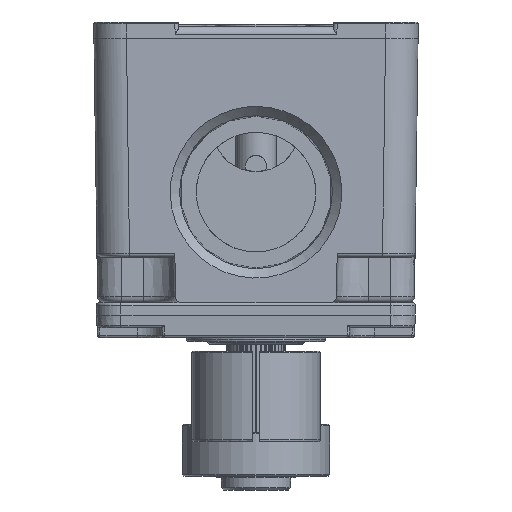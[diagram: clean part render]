
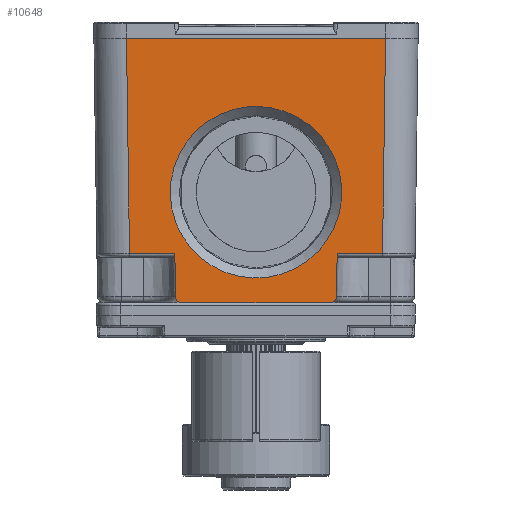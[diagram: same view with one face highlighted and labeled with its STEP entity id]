
A CAD part, left-side view. The second image highlights one B-rep face of the part: STEP entity #10648.
In plain terms, the highlighted planar face has unit normal (-1, 0, -0.011).
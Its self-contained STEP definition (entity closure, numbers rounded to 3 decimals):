
#7413 = VERTEX_POINT('',#7414);
#7414 = CARTESIAN_POINT('',(-33.671,-8.873,0.));
#7420 = EDGE_CURVE('',#7413,#7421,#7423,.T.);
#7421 = VERTEX_POINT('',#7422);
#7422 = CARTESIAN_POINT('',(-33.671,9.314,0.));
#7423 = LINE('',#7424,#7425);
#7424 = CARTESIAN_POINT('',(-33.671,0.22,0.));
#7425 = VECTOR('',#7426,1.);
#7426 = DIRECTION('',(0.,1.,0.));
#7579 = EDGE_CURVE('',#7580,#7582,#7584,.T.);
#7580 = VERTEX_POINT('',#7581);
#7581 = CARTESIAN_POINT('',(-33.735,-15.324,
    6.095));
#7582 = VERTEX_POINT('',#7583);
#7583 = CARTESIAN_POINT('',(-34.011,-15.693,32.5));
#7584 = LINE('',#7585,#7586);
#7585 = CARTESIAN_POINT('',(-34.009,-15.69,
    32.278));
#7586 = VECTOR('',#7587,1.);
#7587 = DIRECTION('',(-0.01,-0.014,
    1.));
#9228 = VERTEX_POINT('',#9229);
#9229 = CARTESIAN_POINT('',(-34.011,16.134,32.5));
#9235 = EDGE_CURVE('',#9228,#7582,#9236,.T.);
#9236 = LINE('',#9237,#9238);
#9237 = CARTESIAN_POINT('',(-34.011,0.22,32.5));
#9238 = VECTOR('',#9239,1.);
#9239 = DIRECTION('',(0.,-1.,0.));
#10648 = ADVANCED_FACE('',(#10649,#10674),#10733,.F.);
#10649 = FACE_BOUND('',#10650,.T.);
#10650 = EDGE_LOOP('',(#10651));
#10651 = ORIENTED_EDGE('',*,*,#10652,.T.);
#10652 = EDGE_CURVE('',#10653,#10653,#10655,.T.);
#10653 = VERTEX_POINT('',#10654);
#10654 = CARTESIAN_POINT('',(-33.924,0.22,
    24.124));
#10655 = B_SPLINE_CURVE_WITH_KNOTS('',3,(#10656,#10657,#10658,#10659,
    #10660,#10661,#10662,#10663,#10664,#10665,#10666,#10667,#10668,
    #10669,#10670,#10671,#10672,#10673),.UNSPECIFIED.,.T.,.F.,(2,2,2,2,2
    ,2,2,2,2,2,2),(-0.125,0.,0.125,0.25,0.375,0.5,0.625,0.75,0.875,1.,
    1.125),.UNSPECIFIED.);
#10656 = CARTESIAN_POINT('',(-33.924,2.984,
    24.124));
#10657 = CARTESIAN_POINT('',(-33.924,-2.543,
    24.124));
#10658 = CARTESIAN_POINT('',(-33.912,-5.28,
    22.991));
#10659 = CARTESIAN_POINT('',(-33.871,-9.189,
    19.082));
#10660 = CARTESIAN_POINT('',(-33.842,-10.322,
    16.346));
#10661 = CARTESIAN_POINT('',(-33.784,-10.322,
    10.818));
#10662 = CARTESIAN_POINT('',(-33.756,-9.189,
    8.081));
#10663 = CARTESIAN_POINT('',(-33.715,-5.28,
    4.173));
#10664 = CARTESIAN_POINT('',(-33.703,-2.543,
    3.039));
#10665 = CARTESIAN_POINT('',(-33.703,2.984,
    3.039));
#10666 = CARTESIAN_POINT('',(-33.715,5.721,
    4.173));
#10667 = CARTESIAN_POINT('',(-33.756,9.63,
    8.081));
#10668 = CARTESIAN_POINT('',(-33.784,10.763,
    10.818));
#10669 = CARTESIAN_POINT('',(-33.842,10.763,
    16.346));
#10670 = CARTESIAN_POINT('',(-33.871,9.63,
    19.082));
#10671 = CARTESIAN_POINT('',(-33.912,5.721,
    22.991));
#10672 = CARTESIAN_POINT('',(-33.924,2.984,
    24.124));
#10673 = CARTESIAN_POINT('',(-33.924,-2.543,
    24.124));
#10674 = FACE_BOUND('',#10675,.T.);
#10675 = EDGE_LOOP('',(#10676,#10677,#10686,#10694,#10700,#10701,#10702,
    #10710,#10718,#10726));
#10676 = ORIENTED_EDGE('',*,*,#7420,.F.);
#10677 = ORIENTED_EDGE('',*,*,#10678,.T.);
#10678 = EDGE_CURVE('',#7413,#10679,#10681,.T.);
#10679 = VERTEX_POINT('',#10680);
#10680 = CARTESIAN_POINT('',(-33.679,-9.673,
    0.789));
#10681 = ELLIPSE('',#10682,0.8,0.8);
#10682 = AXIS2_PLACEMENT_3D('',#10683,#10684,#10685);
#10683 = CARTESIAN_POINT('',(-33.679,-8.873,0.8));
#10684 = DIRECTION('',(-1.,0.,
    -0.01));
#10685 = DIRECTION('',(0.01,0.,
    -1.));
#10686 = ORIENTED_EDGE('',*,*,#10687,.T.);
#10687 = EDGE_CURVE('',#10679,#10688,#10690,.T.);
#10688 = VERTEX_POINT('',#10689);
#10689 = CARTESIAN_POINT('',(-33.735,-9.748,
    6.095));
#10690 = LINE('',#10691,#10692);
#10691 = CARTESIAN_POINT('',(-34.01,-10.119,
    32.354));
#10692 = VECTOR('',#10693,1.);
#10693 = DIRECTION('',(-0.01,-0.014,
    1.));
#10694 = ORIENTED_EDGE('',*,*,#10695,.T.);
#10695 = EDGE_CURVE('',#10688,#7580,#10696,.T.);
#10696 = LINE('',#10697,#10698);
#10697 = CARTESIAN_POINT('',(-33.735,-15.317,
    6.095));
#10698 = VECTOR('',#10699,1.);
#10699 = DIRECTION('',(0.,-1.,0.));
#10700 = ORIENTED_EDGE('',*,*,#7579,.T.);
#10701 = ORIENTED_EDGE('',*,*,#9235,.F.);
#10702 = ORIENTED_EDGE('',*,*,#10703,.F.);
#10703 = EDGE_CURVE('',#10704,#9228,#10706,.T.);
#10704 = VERTEX_POINT('',#10705);
#10705 = CARTESIAN_POINT('',(-33.735,15.765,
    6.095));
#10706 = LINE('',#10707,#10708);
#10707 = CARTESIAN_POINT('',(-34.008,16.13,
    32.198));
#10708 = VECTOR('',#10709,1.);
#10709 = DIRECTION('',(-0.01,0.014,
    1.));
#10710 = ORIENTED_EDGE('',*,*,#10711,.T.);
#10711 = EDGE_CURVE('',#10704,#10712,#10714,.T.);
#10712 = VERTEX_POINT('',#10713);
#10713 = CARTESIAN_POINT('',(-33.735,10.189,
    6.095));
#10714 = LINE('',#10715,#10716);
#10715 = CARTESIAN_POINT('',(-33.735,0.22,
    6.095));
#10716 = VECTOR('',#10717,1.);
#10717 = DIRECTION('',(0.,-1.,0.));
#10718 = ORIENTED_EDGE('',*,*,#10719,.T.);
#10719 = EDGE_CURVE('',#10712,#10720,#10722,.T.);
#10720 = VERTEX_POINT('',#10721);
#10721 = CARTESIAN_POINT('',(-33.679,10.114,
    0.789));
#10722 = LINE('',#10723,#10724);
#10723 = CARTESIAN_POINT('',(-34.01,10.56,
    32.354));
#10724 = VECTOR('',#10725,1.);
#10725 = DIRECTION('',(0.01,-0.014,
    -1.));
#10726 = ORIENTED_EDGE('',*,*,#10727,.T.);
#10727 = EDGE_CURVE('',#10720,#7421,#10728,.T.);
#10728 = ELLIPSE('',#10729,0.8,0.8);
#10729 = AXIS2_PLACEMENT_3D('',#10730,#10731,#10732);
#10730 = CARTESIAN_POINT('',(-33.679,9.314,0.8));
#10731 = DIRECTION('',(-1.,0.,-0.01));
#10732 = DIRECTION('',(-0.01,0.,1.));
#10733 = PLANE('',#10734);
#10734 = AXIS2_PLACEMENT_3D('',#10735,#10736,#10737);
#10735 = CARTESIAN_POINT('',(-34.011,0.22,32.5));
#10736 = DIRECTION('',(1.,0.,0.01));
#10737 = DIRECTION('',(0.01,0.,-1.));
